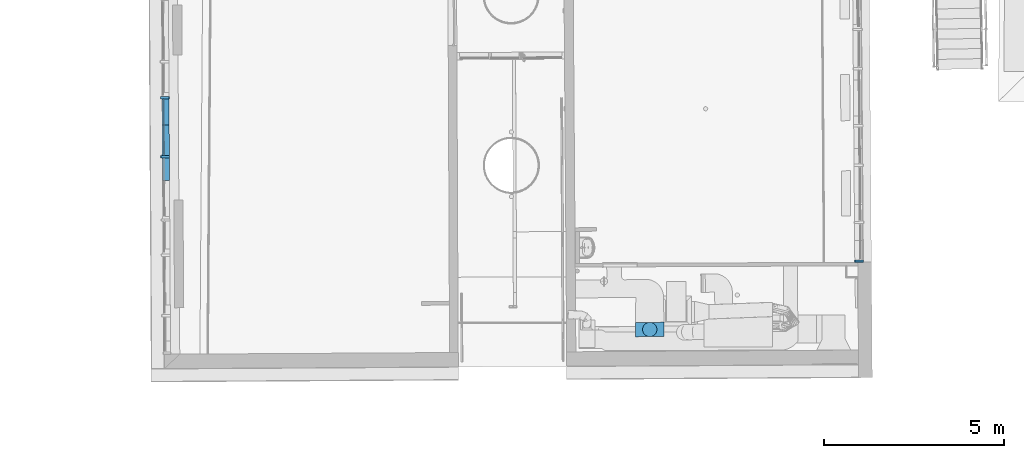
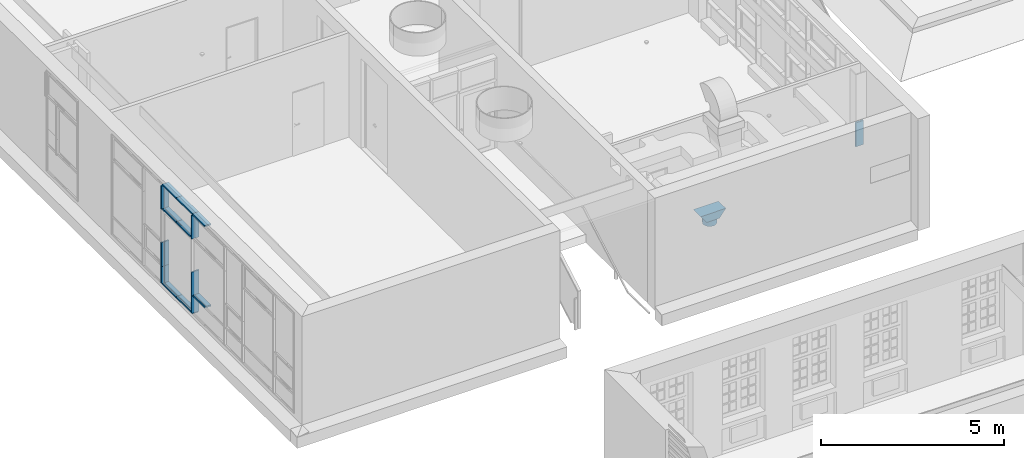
# One storey, part 118 of 158: 17 building element parts, 3 elements without a shape of their own.
"""IFC2X3 building model written with IfcOpenShell, lengths in metres."""

from ifc_helpers import new_model, entity, si_unit, converted_unit, derived_unit, money_unit, direction, frame, origin_with_axes, place, context, subcontext, project, spatial, faceted_brep, material, type_object, element, aggregate, save


model = new_model("IFC2X3")

# Units and contexts
model_context = context("Model", 3, precision=1e-05, world=origin_with_axes(), true_north=direction((0.0, 1.0)))
body_context = subcontext(model_context, "Body", "Model", "MODEL_VIEW")
ifc_project = project(units=[si_unit("LENGTHUNIT", "METRE"), si_unit("AREAUNIT", "SQUARE_METRE"), si_unit("VOLUMEUNIT", "CUBIC_METRE"), converted_unit("PLANEANGLEUNIT", "DEGREE", entity("IfcPlaneAngleMeasure", 0.0174532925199), si_unit("PLANEANGLEUNIT", "RADIAN"), dimensions=[0, 0, 0, 0, 0, 0, 0]), money_unit("EUR"), converted_unit("TIMEUNIT", "Year", entity("IfcTimeMeasure", 31556926.0), si_unit("TIMEUNIT", "SECOND"), dimensions=[0, 0, 1, 0, 0, 0, 0]), si_unit("MASSUNIT", "GRAM", prefix="KILO"), si_unit("THERMODYNAMICTEMPERATUREUNIT", "DEGREE_CELSIUS"), si_unit("LUMINOUSINTENSITYUNIT", "LUMEN"), si_unit("ENERGYUNIT", "JOULE", prefix="MEGA"), derived_unit("THERMALCONDUCTANCEUNIT", [(si_unit("POWERUNIT", "WATT"), 1), (si_unit("LENGTHUNIT", "METRE"), -1), (si_unit("THERMODYNAMICTEMPERATUREUNIT", "KELVIN"), -1)]), derived_unit("SPECIFICHEATCAPACITYUNIT", [(si_unit("ENERGYUNIT", "JOULE"), 1), (si_unit("MASSUNIT", "GRAM", prefix="KILO"), -1), (si_unit("THERMODYNAMICTEMPERATUREUNIT", "KELVIN"), -1)]), derived_unit("MASSDENSITYUNIT", [(si_unit("MASSUNIT", "GRAM", prefix="KILO"), 1), (si_unit("VOLUMEUNIT", "CUBIC_METRE"), -1)])], contexts=[model_context])

# Site, building, storey
site_placement = place(None, origin_with_axes())
site = spatial("IfcSite", under=ifc_project, at=site_placement, Name="Gelände", CompositionType="ELEMENT")
building_placement = place(site_placement, origin_with_axes())
building = spatial("IfcBuilding", under=site, at=building_placement, Name="Gebäude", CompositionType="ELEMENT")
storey_placement = place(building_placement, origin_with_axes())
storey = spatial("IfcBuildingStorey", under=building, at=storey_placement, Name="ERDGESCHOSS", CompositionType="ELEMENT", Elevation=0.0)

# Proxy, building element part
building_element_proxy_type = type_object("IfcBuildingElementProxyType", Name="Fassadentyp", PredefinedType="NOTDEFINED")
proxy_1_placement = place(storey_placement, frame((-15.5457352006, 40.9565245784, 1.34043905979), z_axis=(0.0, 0.0, 1.0), x_axis=(1.0, 0.0, 0.0)))
proxy_1 = element("IfcBuildingElementProxy", 1, at=proxy_1_placement, inside=storey, type_object=building_element_proxy_type, Name="Fassade-002")
ifc_material_1 = material(Name="53_Metall, Aluminium")
building_element_part_1_placement = place(proxy_1_placement, origin_with_axes())
building_element_part_1 = element("IfcBuildingElementPart", 2, at=building_element_part_1_placement, material=ifc_material_1, Name="53_Metall, Aluminium", context=body_context, shape_type="Brep", body=[
    faceted_brep([(0.0454258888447, -7.12321449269, 1.41999994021), (0.04530917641, -7.10821494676, 1.41999994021), (-0.0946865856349, -7.10930426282, 1.41999994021), (-0.0942975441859, -7.15930274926, 1.41999994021), (0.145695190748, -7.15743535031, 1.41999994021), (0.145306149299, -7.10743686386, 1.41999994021), (0.0653085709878, -7.10805933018, 1.41999994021), (0.0654252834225, -7.12305887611, 1.41999994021), (0.0454258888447, -7.12321449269, 0.61999994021), (0.04530917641, -7.10821494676, 0.61999994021), (-0.0946865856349, -7.10930426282, 0.61999994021), (-0.0942975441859, -7.15930274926, 0.61999994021), (0.145695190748, -7.15743535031, 0.61999994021), (0.145306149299, -7.10743686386, 0.61999994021), (0.0653085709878, -7.10805933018, 0.61999994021), (0.0654252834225, -7.12305887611, 0.61999994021)], [[[0, 1, 2, 3, 4, 5, 6, 7]], [[0, 8, 9, 1]], [[9, 10, 2, 1]], [[10, 11, 3, 2]], [[11, 12, 4, 3]], [[12, 13, 5, 4]], [[6, 5, 13, 14]], [[14, 15, 7, 6]], [[7, 15, 8, 0]], [[8, 15, 14, 13, 12, 11, 10, 9]]]),
])
aggregate(proxy_1, [building_element_part_1])

# Proxy, building element parts
proxy_2_placement = place(storey_placement, frame((-34.8120286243, 34.4012060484, 1.3404389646), z_axis=(0.0, 0.0, 1.0), x_axis=(1.0, 0.0, 0.0)))
proxy_2 = element("IfcBuildingElementProxy", 3, at=proxy_2_placement, inside=storey, type_object=building_element_proxy_type, Name="Fassade-002")
building_element_part_2_placement = place(proxy_2_placement, origin_with_axes())
building_element_part_2 = element("IfcBuildingElementPart", 4, at=building_element_part_2_placement, material=ifc_material_1, Name="53_Metall, Aluminium", context=body_context, shape_type="Brep", body=[
    faceted_brep([(-0.00883466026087, 3.21149355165, 2.5100000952), (-0.00883466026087, 3.21149355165, 2.4950000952), (0.131162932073, 3.21231461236, 2.4950000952), (0.131162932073, 3.21231461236, 2.5450000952), (-0.00883466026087, 3.21149355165, 2.5450000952), (-0.00883466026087, 3.21149355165, 2.5300000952), (-0.0288343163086, 3.21137625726, 2.5300000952), (-0.0288343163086, 3.21137625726, 2.5450000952), (-0.068833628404, 3.21114166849, 2.5450000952), (-0.068833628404, 3.21114166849, 2.4950000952), (-0.0288343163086, 3.21137625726, 2.4950000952), (-0.0288343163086, 3.21137625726, 2.5100000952), (-0.0130977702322, 3.93838880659, 2.5100000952), (-0.0130977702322, 3.93838880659, 2.4950000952), (0.126899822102, 3.93920986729, 2.4950000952), (0.126899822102, 3.93920986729, 2.5450000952), (-0.0130977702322, 3.93838880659, 2.5450000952), (-0.0130977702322, 3.93838880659, 2.5300000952), (-0.0330974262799, 3.9382715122, 2.5300000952), (-0.0330974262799, 3.9382715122, 2.5450000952), (-0.0730967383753, 3.93803692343, 2.5450000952), (-0.0730967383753, 3.93803692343, 2.4950000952), (-0.0330974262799, 3.9382715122, 2.4950000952), (-0.0330974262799, 3.9382715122, 2.5100000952)], [[[0, 1, 2, 3, 4, 5, 6, 7, 8, 9, 10, 11]], [[1, 0, 12, 13]], [[1, 13, 14, 2]], [[2, 14, 15, 3]], [[4, 3, 15, 16]], [[4, 16, 17, 5]], [[5, 17, 18, 6]], [[7, 6, 18, 19]], [[19, 20, 8, 7]], [[8, 20, 21, 9]], [[22, 10, 9, 21]], [[11, 10, 22, 23]], [[0, 11, 23, 12]], [[23, 22, 21, 20, 19, 18, 17, 16, 15, 14, 13, 12]]]),
])
building_element_part_3_placement = place(proxy_2_placement, origin_with_axes())
building_element_part_3 = element("IfcBuildingElementPart", 5, at=building_element_part_3_placement, material=ifc_material_1, Name="53_Metall, Aluminium", context=body_context, shape_type="Brep", body=[
    faceted_brep([(-0.0131857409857, 3.95338854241, 1.42000009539), (-0.0130977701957, 3.93838880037, 1.42000009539), (0.126899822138, 3.93920986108, 1.42000009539), (0.126606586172, 3.9892090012, 1.42000009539), (-0.0133910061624, 3.98838794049, 1.42000009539), (-0.0133030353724, 3.97338819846, 1.42000009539), (-0.0333026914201, 3.97327090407, 1.42000009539), (-0.0333906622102, 3.98827064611, 1.42000009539), (-0.108389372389, 3.98783079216, 1.42000009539), (-0.108096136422, 3.93783165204, 1.42000009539), (-0.0330974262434, 3.93827150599, 1.42000009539), (-0.0331853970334, 3.95327124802, 1.42000009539), (-0.0131857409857, 3.95338854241, 0.620000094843), (-0.0130977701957, 3.93838880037, 0.620000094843), (0.126899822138, 3.93920986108, 0.620000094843), (0.126606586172, 3.9892090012, 0.620000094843), (-0.0133910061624, 3.98838794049, 0.620000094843), (-0.0133030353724, 3.97338819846, 0.620000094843), (-0.0333026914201, 3.97327090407, 0.620000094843), (-0.0333906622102, 3.98827064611, 0.620000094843), (-0.108389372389, 3.98783079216, 0.620000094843), (-0.108096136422, 3.93783165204, 0.620000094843), (-0.0330974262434, 3.93827150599, 0.620000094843), (-0.0331853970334, 3.95327124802, 0.620000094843)], [[[0, 1, 2, 3, 4, 5, 6, 7, 8, 9, 10, 11]], [[1, 0, 12, 13]], [[1, 13, 14, 2]], [[3, 2, 14, 15]], [[4, 3, 15, 16]], [[4, 16, 17, 5]], [[5, 17, 18, 6]], [[7, 6, 18, 19]], [[19, 20, 8, 7]], [[9, 8, 20, 21]], [[22, 10, 9, 21]], [[11, 10, 22, 23]], [[0, 11, 23, 12]], [[23, 22, 21, 20, 19, 18, 17, 16, 15, 14, 13, 12]]]),
])
building_element_part_4_placement = place(proxy_2_placement, origin_with_axes())
building_element_part_4 = element("IfcBuildingElementPart", 6, at=building_element_part_4_placement, material=ifc_material_1, Name="53_Metall, Aluminium", context=body_context, shape_type="Brep", body=[
    faceted_brep([(-0.00883466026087, 3.21149355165, 0.0350000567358), (-0.0288343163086, 3.21137625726, 0.0350000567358), (-0.0288343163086, 3.21137625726, 0.0500000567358), (-0.068833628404, 3.21114166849, 0.0500000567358), (-0.068833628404, 3.21114166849, 5.6735754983e-08), (0.131162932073, 3.21231461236, 5.6735754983e-08), (0.131162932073, 3.21231461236, 0.0500000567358), (-0.00883466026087, 3.21149355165, 0.0500000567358), (-0.0132443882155, 3.96338837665, 0.0350000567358), (-0.0332440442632, 3.96327108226, 0.0350000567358), (-0.0332440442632, 3.96327108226, 0.0500000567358), (-0.0732433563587, 3.96303649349, 0.0500000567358), (-0.0732433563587, 3.96303649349, 5.6735754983e-08), (0.126753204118, 3.96420943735, 5.6735754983e-08), (0.126753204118, 3.96420943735, 0.0500000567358), (-0.0132443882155, 3.96338837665, 0.0500000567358)], [[[0, 1, 2, 3, 4, 5, 6, 7]], [[1, 0, 8, 9]], [[10, 2, 1, 9]], [[2, 10, 11, 3]], [[12, 4, 3, 11]], [[13, 5, 4, 12]], [[14, 6, 5, 13]], [[15, 7, 6, 14]], [[0, 7, 15, 8]], [[8, 15, 14, 13, 12, 11, 10, 9]]]),
])
building_element_part_5_placement = place(proxy_2_placement, origin_with_axes())
building_element_part_5 = element("IfcBuildingElementPart", 7, at=building_element_part_5_placement, material=ifc_material_1, Name="53_Metall, Aluminium", context=body_context, shape_type="Brep", body=[
    faceted_brep([(-0.00365213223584, 2.32782996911, 0.0350000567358), (-0.0236517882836, 2.32771267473, 0.0350000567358), (-0.0236517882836, 2.32771267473, 0.0500000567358), (-0.063651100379, 2.32747808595, 0.0500000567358), (-0.063651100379, 2.32747808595, 5.6735754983e-08), (0.136345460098, 2.32865102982, 5.6735754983e-08), (0.136345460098, 2.32865102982, 0.0500000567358), (-0.00365213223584, 2.32782996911, 0.0500000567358), (-0.00883466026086, 3.21149355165, 0.0350000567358), (-0.0288343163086, 3.21137625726, 0.0350000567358), (-0.0288343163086, 3.21137625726, 0.0500000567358), (-0.068833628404, 3.21114166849, 0.0500000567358), (-0.068833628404, 3.21114166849, 5.6735754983e-08), (0.131162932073, 3.21231461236, 5.6735754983e-08), (0.131162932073, 3.21231461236, 0.0500000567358), (-0.00883466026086, 3.21149355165, 0.0500000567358)], [[[0, 1, 2, 3, 4, 5, 6, 7]], [[1, 0, 8, 9]], [[10, 2, 1, 9]], [[2, 10, 11, 3]], [[12, 4, 3, 11]], [[13, 5, 4, 12]], [[14, 6, 5, 13]], [[15, 7, 6, 14]], [[0, 7, 15, 8]], [[8, 15, 14, 13, 12, 11, 10, 9]]]),
])
building_element_part_6_placement = place(proxy_2_placement, origin_with_axes())
building_element_part_6 = element("IfcBuildingElementPart", 8, at=building_element_part_6_placement, material=ifc_material_1, Name="53_Metall, Aluminium", context=body_context, shape_type="Brep", body=[
    faceted_brep([(0.000255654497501, 1.66152024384, 0.610000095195), (0.000255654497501, 1.66152024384, 0.595000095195), (0.140253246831, 1.66234130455, 0.595000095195), (0.140253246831, 1.66234130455, 0.645000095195), (0.000255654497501, 1.66152024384, 0.645000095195), (0.000255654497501, 1.66152024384, 0.630000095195), (-0.0197440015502, 1.66140294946, 0.630000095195), (-0.0197440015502, 1.66140294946, 0.645000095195), (-0.0597433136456, 1.66116836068, 0.645000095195), (-0.0597433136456, 1.66116836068, 0.595000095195), (-0.0197440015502, 1.66140294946, 0.595000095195), (-0.0197440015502, 1.66140294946, 0.610000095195), (-0.00350551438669, 2.30283042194, 0.610000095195), (-0.00350551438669, 2.30283042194, 0.595000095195), (0.136492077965, 2.30365147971, 0.595000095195), (0.136492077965, 2.30365147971, 0.645000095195), (-0.00350551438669, 2.30283042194, 0.645000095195), (-0.00350551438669, 2.30283042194, 0.630000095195), (-0.0235051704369, 2.30271312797, 0.630000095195), (-0.0235051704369, 2.30271312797, 0.645000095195), (-0.0635044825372, 2.30247854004, 0.645000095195), (-0.0635044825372, 2.30247854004, 0.595000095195), (-0.0235051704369, 2.30271312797, 0.595000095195), (-0.0235051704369, 2.30271312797, 0.610000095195)], [[[0, 1, 2, 3, 4, 5, 6, 7, 8, 9, 10, 11]], [[1, 0, 12, 13]], [[1, 13, 14, 2]], [[2, 14, 15, 3]], [[4, 3, 15, 16]], [[4, 16, 17, 5]], [[5, 17, 18, 6]], [[7, 6, 18, 19]], [[19, 20, 8, 7]], [[8, 20, 21, 9]], [[22, 10, 9, 21]], [[11, 10, 22, 23]], [[0, 11, 23, 12]], [[23, 22, 21, 20, 19, 18, 17, 16, 15, 14, 13, 12]]]),
])
building_element_part_7_placement = place(proxy_2_placement, origin_with_axes())
building_element_part_7 = element("IfcBuildingElementPart", 9, at=building_element_part_7_placement, material=ifc_material_1, Name="53_Metall, Aluminium", context=body_context, shape_type="Brep", body=[
    faceted_brep([(-0.00359348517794, 2.31783016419, 1.42000009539), (-0.00350551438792, 2.30283042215, 1.42000009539), (0.136492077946, 2.30365148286, 1.42000009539), (0.136198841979, 2.35365062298, 1.42000009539), (-0.00379875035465, 2.35282956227, 1.42000009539), (-0.00371077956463, 2.33782982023, 1.42000009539), (-0.0237104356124, 2.33771252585, 1.42000009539), (-0.0237984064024, 2.35271226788, 1.42000009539), (-0.0987971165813, 2.35227241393, 1.42000009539), (-0.0985038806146, 2.30227327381, 1.42000009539), (-0.0235051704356, 2.30271312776, 1.42000009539), (-0.0235931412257, 2.3177128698, 1.42000009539), (-0.00359348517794, 2.31783016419, 0.620000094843), (-0.00350551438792, 2.30283042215, 0.620000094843), (0.136492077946, 2.30365148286, 0.620000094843), (0.136198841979, 2.35365062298, 0.620000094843), (-0.00379875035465, 2.35282956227, 0.620000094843), (-0.00371077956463, 2.33782982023, 0.620000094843), (-0.0237104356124, 2.33771252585, 0.620000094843), (-0.0237984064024, 2.35271226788, 0.620000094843), (-0.0987971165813, 2.35227241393, 0.620000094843), (-0.0985038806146, 2.30227327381, 0.620000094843), (-0.0235051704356, 2.30271312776, 0.620000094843), (-0.0235931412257, 2.3177128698, 0.620000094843)], [[[0, 1, 2, 3, 4, 5, 6, 7, 8, 9, 10, 11]], [[1, 0, 12, 13]], [[1, 13, 14, 2]], [[3, 2, 14, 15]], [[4, 3, 15, 16]], [[4, 16, 17, 5]], [[5, 17, 18, 6]], [[7, 6, 18, 19]], [[19, 20, 8, 7]], [[9, 8, 20, 21]], [[22, 10, 9, 21]], [[11, 10, 22, 23]], [[0, 11, 23, 12]], [[23, 22, 21, 20, 19, 18, 17, 16, 15, 14, 13, 12]]]),
])
building_element_part_8_placement = place(proxy_2_placement, origin_with_axes())
building_element_part_8 = element("IfcBuildingElementPart", 10, at=building_element_part_8_placement, material=ifc_material_1, Name="53_Metall, Aluminium", context=body_context, shape_type="Brep", body=[
    faceted_brep([(-0.00359348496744, 2.3178301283, 3.29999996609), (-0.00350551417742, 2.30283038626, 3.29999996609), (0.136492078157, 2.30365144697, 3.29999996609), (0.13619884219, 2.35365058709, 3.29999996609), (-0.00379875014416, 2.35282952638, 3.29999996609), (-0.00371077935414, 2.33782978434, 3.29999996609), (-0.0237104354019, 2.33771248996, 3.29999996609), (-0.0237984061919, 2.35271223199, 3.29999996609), (-0.0987971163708, 2.35227237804, 3.29999996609), (-0.0985038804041, 2.30227323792, 3.29999996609), (-0.0235051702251, 2.30271309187, 3.29999996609), (-0.0235931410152, 2.31771283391, 3.29999996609), (-0.00359348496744, 2.3178301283, 2.52000009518), (-0.00350551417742, 2.30283038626, 2.52000009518), (0.136492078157, 2.30365144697, 2.52000009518), (0.13619884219, 2.35365058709, 2.52000009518), (-0.00379875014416, 2.35282952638, 2.52000009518), (-0.00371077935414, 2.33782978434, 2.52000009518), (-0.0237104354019, 2.33771248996, 2.52000009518), (-0.0237984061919, 2.35271223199, 2.52000009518), (-0.0987971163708, 2.35227237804, 2.52000009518), (-0.0985038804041, 2.30227323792, 2.52000009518), (-0.0235051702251, 2.30271309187, 2.52000009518), (-0.0235931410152, 2.31771283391, 2.52000009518)], [[[0, 1, 2, 3, 4, 5, 6, 7, 8, 9, 10, 11]], [[1, 0, 12, 13]], [[1, 13, 14, 2]], [[3, 2, 14, 15]], [[4, 3, 15, 16]], [[4, 16, 17, 5]], [[5, 17, 18, 6]], [[7, 6, 18, 19]], [[19, 20, 8, 7]], [[9, 8, 20, 21]], [[22, 10, 9, 21]], [[11, 10, 22, 23]], [[0, 11, 23, 12]], [[23, 22, 21, 20, 19, 18, 17, 16, 15, 14, 13, 12]]]),
])
building_element_part_9_placement = place(proxy_2_placement, origin_with_axes())
building_element_part_9 = element("IfcBuildingElementPart", 11, at=building_element_part_9_placement, material=ifc_material_1, Name="53_Metall, Aluminium", context=body_context, shape_type="Brep", body=[
    faceted_brep([(-0.00379875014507, 2.35282952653, 2.5100000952), (-0.00379875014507, 2.35282952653, 2.4950000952), (0.136198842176, 2.3536505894, 2.4950000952), (0.136198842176, 2.3536505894, 2.5450000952), (-0.00379875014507, 2.35282952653, 2.5450000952), (-0.00379875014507, 2.35282952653, 2.5300000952), (-0.023798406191, 2.35271223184, 2.5300000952), (-0.023798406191, 2.35271223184, 2.5450000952), (-0.0637977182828, 2.35247764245, 2.5450000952), (-0.0637977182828, 2.35247764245, 2.4950000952), (-0.023798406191, 2.35271223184, 2.4950000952), (-0.023798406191, 2.35271223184, 2.5100000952), (-0.00883466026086, 3.21149355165, 2.5100000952), (-0.00883466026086, 3.21149355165, 2.4950000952), (0.131162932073, 3.21231461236, 2.4950000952), (0.131162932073, 3.21231461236, 2.5450000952), (-0.00883466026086, 3.21149355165, 2.5450000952), (-0.00883466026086, 3.21149355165, 2.5300000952), (-0.0288343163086, 3.21137625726, 2.5300000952), (-0.0288343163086, 3.21137625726, 2.5450000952), (-0.068833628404, 3.21114166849, 2.5450000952), (-0.068833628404, 3.21114166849, 2.4950000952), (-0.0288343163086, 3.21137625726, 2.4950000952), (-0.0288343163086, 3.21137625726, 2.5100000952)], [[[0, 1, 2, 3, 4, 5, 6, 7, 8, 9, 10, 11]], [[1, 0, 12, 13]], [[1, 13, 14, 2]], [[3, 2, 14, 15]], [[4, 3, 15, 16]], [[4, 16, 17, 5]], [[5, 17, 18, 6]], [[7, 6, 18, 19]], [[19, 20, 8, 7]], [[9, 8, 20, 21]], [[22, 10, 9, 21]], [[11, 10, 22, 23]], [[0, 11, 23, 12]], [[23, 22, 21, 20, 19, 18, 17, 16, 15, 14, 13, 12]]]),
])
building_element_part_10_placement = place(proxy_2_placement, origin_with_axes())
building_element_part_10 = element("IfcBuildingElementPart", 12, at=building_element_part_10_placement, material=ifc_material_1, Name="53_Metall, Aluminium", context=body_context, shape_type="Brep", body=[
    faceted_brep([(-0.00359348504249, 2.31783014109, 0.62000009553), (-0.00350551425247, 2.30283039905, 0.62000009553), (0.136492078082, 2.30365145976, 0.62000009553), (0.136198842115, 2.35365059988, 0.62000009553), (-0.0037987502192, 2.35282953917, 0.62000009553), (-0.00371077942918, 2.33782979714, 0.62000009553), (-0.0237104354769, 2.33771250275, 0.62000009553), (-0.0237984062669, 2.35271224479, 0.62000009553), (-0.0987971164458, 2.35227239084, 0.62000009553), (-0.0985038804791, 2.30227325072, 0.62000009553), (-0.0235051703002, 2.30271310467, 0.62000009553), (-0.0235931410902, 2.3177128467, 0.62000009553), (-0.00359348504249, 2.31783014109, 0.0500000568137), (-0.00350551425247, 2.30283039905, 0.0500000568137), (0.136492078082, 2.30365145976, 0.050000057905), (0.136198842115, 2.35365059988, 0.050000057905), (-0.0037987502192, 2.35282953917, 0.0500000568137), (-0.00371077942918, 2.33782979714, 0.0500000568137), (-0.0237104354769, 2.33771250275, 0.0500000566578), (-0.0237984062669, 2.35271224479, 0.0500000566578), (-0.0987971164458, 2.35227239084, 0.0500000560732), (-0.0985038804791, 2.30227325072, 0.0500000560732), (-0.0235051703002, 2.30271310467, 0.0500000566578), (-0.0235931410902, 2.3177128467, 0.0500000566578)], [[[0, 1, 2, 3, 4, 5, 6, 7, 8, 9, 10, 11]], [[1, 0, 12, 13]], [[1, 13, 14, 2]], [[2, 14, 15, 3]], [[4, 3, 15, 16]], [[4, 16, 17, 5]], [[5, 17, 18, 6]], [[7, 6, 18, 19]], [[19, 20, 8, 7]], [[8, 20, 21, 9]], [[22, 10, 9, 21]], [[11, 10, 22, 23]], [[0, 11, 23, 12]], [[23, 22, 21, 20, 19, 18, 17, 16, 15, 14, 13, 12]]]),
])
building_element_part_11_placement = place(proxy_2_placement, origin_with_axes())
building_element_part_11 = element("IfcBuildingElementPart", 13, at=building_element_part_11_placement, material=ifc_material_1, Name="53_Metall, Aluminium", context=body_context, shape_type="Brep", body=[
    faceted_brep([(-0.0131857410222, 3.95338854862, 0.62000009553), (-0.0130977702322, 3.93838880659, 0.62000009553), (0.126899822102, 3.93920986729, 0.62000009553), (0.126606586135, 3.98920900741, 0.62000009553), (-0.0133910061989, 3.98838794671, 0.62000009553), (-0.0133030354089, 3.97338820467, 0.62000009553), (-0.0333026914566, 3.97327091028, 0.62000009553), (-0.0333906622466, 3.98827065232, 0.62000009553), (-0.108389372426, 3.98783079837, 0.62000009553), (-0.108096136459, 3.93783165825, 0.62000009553), (-0.0330974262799, 3.9382715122, 0.62000009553), (-0.0331853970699, 3.95327125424, 0.62000009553), (-0.0131857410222, 3.95338854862, 0.0500000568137), (-0.0130977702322, 3.93838880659, 0.0500000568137), (0.126899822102, 3.93920986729, 0.050000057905), (0.126606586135, 3.98920900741, 0.050000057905), (-0.0133910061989, 3.98838794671, 0.0500000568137), (-0.0133030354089, 3.97338820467, 0.0500000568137), (-0.0333026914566, 3.97327091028, 0.0500000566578), (-0.0333906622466, 3.98827065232, 0.0500000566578), (-0.108389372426, 3.98783079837, 0.0500000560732), (-0.108096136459, 3.93783165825, 0.0500000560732), (-0.0330974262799, 3.9382715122, 0.0500000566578), (-0.0331853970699, 3.95327125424, 0.0500000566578)], [[[0, 1, 2, 3, 4, 5, 6, 7, 8, 9, 10, 11]], [[1, 0, 12, 13]], [[1, 13, 14, 2]], [[2, 14, 15, 3]], [[4, 3, 15, 16]], [[4, 16, 17, 5]], [[5, 17, 18, 6]], [[7, 6, 18, 19]], [[19, 20, 8, 7]], [[8, 20, 21, 9]], [[22, 10, 9, 21]], [[11, 10, 22, 23]], [[0, 11, 23, 12]], [[23, 22, 21, 20, 19, 18, 17, 16, 15, 14, 13, 12]]]),
])
building_element_part_12_placement = place(proxy_2_placement, origin_with_axes())
building_element_part_12 = element("IfcBuildingElementPart", 14, at=building_element_part_12_placement, material=ifc_material_1, Name="53_Metall, Aluminium", context=body_context, shape_type="Brep", body=[
    faceted_brep([(0.000255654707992, 1.66152020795, 3.31499999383), (0.000255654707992, 1.66152020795, 3.29999999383), (0.140253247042, 1.66234126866, 3.29999999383), (0.140253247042, 1.66234126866, 3.34999999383), (-0.0597433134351, 1.66116832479, 3.34999999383), (-0.0597433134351, 1.66116832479, 3.29999999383), (-0.0197440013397, 1.66140291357, 3.29999999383), (-0.0197440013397, 1.66140291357, 3.31499999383), (-0.00365213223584, 2.32782996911, 3.31499999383), (-0.00365213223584, 2.32782996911, 3.29999999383), (0.136345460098, 2.32865102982, 3.29999999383), (0.136345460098, 2.32865102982, 3.34999999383), (-0.063651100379, 2.32747808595, 3.34999999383), (-0.063651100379, 2.32747808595, 3.29999999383), (-0.0236517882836, 2.32771267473, 3.29999999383), (-0.0236517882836, 2.32771267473, 3.31499999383)], [[[0, 1, 2, 3, 4, 5, 6, 7]], [[0, 8, 9, 1]], [[9, 10, 2, 1]], [[10, 11, 3, 2]], [[11, 12, 4, 3]], [[12, 13, 5, 4]], [[6, 5, 13, 14]], [[14, 15, 7, 6]], [[7, 15, 8, 0]], [[8, 15, 14, 13, 12, 11, 10, 9]]]),
])
building_element_part_13_placement = place(proxy_2_placement, origin_with_axes())
building_element_part_13 = element("IfcBuildingElementPart", 15, at=building_element_part_13_placement, material=ifc_material_1, Name="53_Metall, Aluminium", context=body_context, shape_type="Brep", body=[
    faceted_brep([(-0.00365213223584, 2.32782996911, 3.31499999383), (-0.00365213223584, 2.32782996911, 3.29999999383), (0.136345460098, 2.32865102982, 3.29999999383), (0.136345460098, 2.32865102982, 3.34999999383), (-0.063651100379, 2.32747808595, 3.34999999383), (-0.063651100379, 2.32747808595, 3.29999999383), (-0.0236517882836, 2.32771267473, 3.29999999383), (-0.0236517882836, 2.32771267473, 3.31499999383), (-0.00883466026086, 3.21149355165, 3.31499999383), (-0.00883466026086, 3.21149355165, 3.29999999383), (0.131162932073, 3.21231461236, 3.29999999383), (0.131162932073, 3.21231461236, 3.34999999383), (-0.068833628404, 3.21114166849, 3.34999999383), (-0.068833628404, 3.21114166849, 3.29999999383), (-0.0288343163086, 3.21137625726, 3.29999999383), (-0.0288343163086, 3.21137625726, 3.31499999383)], [[[0, 1, 2, 3, 4, 5, 6, 7]], [[0, 8, 9, 1]], [[9, 10, 2, 1]], [[10, 11, 3, 2]], [[11, 12, 4, 3]], [[12, 13, 5, 4]], [[6, 5, 13, 14]], [[14, 15, 7, 6]], [[7, 15, 8, 0]], [[8, 15, 14, 13, 12, 11, 10, 9]]]),
])
building_element_part_14_placement = place(proxy_2_placement, origin_with_axes())
building_element_part_14 = element("IfcBuildingElementPart", 16, at=building_element_part_14_placement, material=ifc_material_1, Name="53_Metall, Aluminium", context=body_context, shape_type="Brep", body=[
    faceted_brep([(-0.00883466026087, 3.21149355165, 3.31499999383), (-0.00883466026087, 3.21149355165, 3.29999999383), (0.131162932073, 3.21231461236, 3.29999999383), (0.131162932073, 3.21231461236, 3.34999999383), (-0.068833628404, 3.21114166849, 3.34999999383), (-0.068833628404, 3.21114166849, 3.29999999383), (-0.0288343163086, 3.21137625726, 3.29999999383), (-0.0288343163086, 3.21137625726, 3.31499999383), (-0.0132443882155, 3.96338837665, 3.31499999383), (-0.0132443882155, 3.96338837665, 3.29999999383), (0.126753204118, 3.96420943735, 3.29999999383), (0.126753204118, 3.96420943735, 3.34999999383), (-0.0732433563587, 3.96303649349, 3.34999999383), (-0.0732433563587, 3.96303649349, 3.29999999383), (-0.0332440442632, 3.96327108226, 3.29999999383), (-0.0332440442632, 3.96327108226, 3.31499999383)], [[[0, 1, 2, 3, 4, 5, 6, 7]], [[0, 8, 9, 1]], [[9, 10, 2, 1]], [[10, 11, 3, 2]], [[11, 12, 4, 3]], [[12, 13, 5, 4]], [[6, 5, 13, 14]], [[14, 15, 7, 6]], [[7, 15, 8, 0]], [[8, 15, 14, 13, 12, 11, 10, 9]]]),
])
building_element_part_15_placement = place(proxy_2_placement, origin_with_axes())
building_element_part_15 = element("IfcBuildingElementPart", 17, at=building_element_part_15_placement, material=ifc_material_1, Name="53_Metall, Aluminium", context=body_context, shape_type="Brep", body=[
    faceted_brep([(-0.0131857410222, 3.95338854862, 3.29999996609), (-0.0130977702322, 3.93838880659, 3.29999996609), (0.126899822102, 3.93920986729, 3.29999996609), (0.126606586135, 3.98920900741, 3.29999996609), (-0.0133910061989, 3.98838794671, 3.29999996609), (-0.0133030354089, 3.97338820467, 3.29999996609), (-0.0333026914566, 3.97327091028, 3.29999996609), (-0.0333906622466, 3.98827065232, 3.29999996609), (-0.108389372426, 3.98783079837, 3.29999996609), (-0.108096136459, 3.93783165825, 3.29999996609), (-0.0330974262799, 3.9382715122, 3.29999996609), (-0.0331853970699, 3.95327125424, 3.29999996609), (-0.0131857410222, 3.95338854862, 2.52000009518), (-0.0130977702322, 3.93838880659, 2.52000009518), (0.126899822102, 3.93920986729, 2.52000009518), (0.126606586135, 3.98920900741, 2.52000009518), (-0.0133910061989, 3.98838794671, 2.52000009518), (-0.0133030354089, 3.97338820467, 2.52000009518), (-0.0333026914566, 3.97327091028, 2.52000009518), (-0.0333906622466, 3.98827065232, 2.52000009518), (-0.108389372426, 3.98783079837, 2.52000009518), (-0.108096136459, 3.93783165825, 2.52000009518), (-0.0330974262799, 3.9382715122, 2.52000009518), (-0.0331853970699, 3.95327125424, 2.52000009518)], [[[0, 1, 2, 3, 4, 5, 6, 7, 8, 9, 10, 11]], [[1, 0, 12, 13]], [[1, 13, 14, 2]], [[3, 2, 14, 15]], [[4, 3, 15, 16]], [[4, 16, 17, 5]], [[5, 17, 18, 6]], [[7, 6, 18, 19]], [[19, 20, 8, 7]], [[9, 8, 20, 21]], [[22, 10, 9, 21]], [[11, 10, 22, 23]], [[0, 11, 23, 12]], [[23, 22, 21, 20, 19, 18, 17, 16, 15, 14, 13, 12]]]),
])
aggregate(proxy_2, [building_element_part_2, building_element_part_3, building_element_part_4, building_element_part_5, building_element_part_6, building_element_part_7, building_element_part_8, building_element_part_9, building_element_part_10, building_element_part_11, building_element_part_12, building_element_part_13, building_element_part_14, building_element_part_15])

# Column, building element parts
column_type = type_object("IfcColumnType", Name="Verschiedene Strukturen - 2 Segmente - 800 x 400 x 446 (188+258)", PredefinedType="USERDEFINED")
column_placement = place(storey_placement, frame((-21.333668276, 31.9286956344, 2.57138322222), z_axis=(0.0, 0.0, 1.0), x_axis=(0.968308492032, 0.249757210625, 0.0)))
column = element("IfcColumn", 18, at=column_placement, inside=storey, type_object=column_type, Name="Stütze-012", ObjectType="PILASTER")
ifc_material_2 = material(Name="56_Metall, Stahl verzinkt")
building_element_part_16_placement = place(column_placement, origin_with_axes())
building_element_part_16 = element("IfcBuildingElementPart", 19, at=building_element_part_16_placement, material=ifc_material_2, Name="56_Metall, Stahl verzinkt", context=body_context, shape_type="Brep", body=[
    faceted_brep([(-0.193878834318, 0.0491019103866, 0.188275), (-0.193878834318, 0.0491019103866, 0.0), (-0.199732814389, 0.0103345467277, 0.0), (-0.199732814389, 0.0103345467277, 0.188275), (-0.180574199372, 0.085982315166, 0.188275), (-0.180574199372, 0.085982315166, 0.0), (-0.160330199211, 0.119558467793, 0.0), (-0.133924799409, 0.148540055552, 0.0), (-0.102372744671, 0.171813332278, 0.0), (-0.0668865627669, 0.188483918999, 0.0), (-0.0288299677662, 0.197911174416, 0.0), (0.0103345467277, 0.199732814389, 0.0), (0.0491019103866, 0.193878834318, 0.0), (0.085982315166, 0.180574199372, 0.0), (0.119558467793, 0.160330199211, 0.0), (0.148540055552, 0.133924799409, 0.0), (0.171813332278, 0.102372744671, 0.0), (0.188483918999, 0.066886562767, 0.0), (0.197911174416, 0.0288299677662, 0.0), (0.199732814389, -0.0103345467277, 0.0), (0.193878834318, -0.0491019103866, 0.0), (0.180574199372, -0.085982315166, 0.0), (0.160330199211, -0.119558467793, 0.0), (0.133924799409, -0.148540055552, 0.0), (0.102372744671, -0.171813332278, 0.0), (0.0668865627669, -0.188483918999, 0.0), (0.0288299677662, -0.197911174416, 0.0), (-0.0103345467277, -0.199732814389, 0.0), (-0.0491019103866, -0.193878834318, 0.0), (-0.085982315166, -0.180574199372, 0.0), (-0.119558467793, -0.160330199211, 0.0), (-0.148540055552, -0.133924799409, 0.0), (-0.171813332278, -0.102372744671, 0.0), (-0.188483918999, -0.0668865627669, 0.0), (-0.197911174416, -0.0288299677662, 0.0), (-0.197911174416, -0.0288299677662, 0.188275), (-0.188483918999, -0.0668865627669, 0.188275), (-0.171813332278, -0.102372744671, 0.188275), (-0.148540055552, -0.133924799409, 0.188275), (-0.119558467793, -0.160330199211, 0.188275), (-0.085982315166, -0.180574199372, 0.188275), (-0.0491019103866, -0.193878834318, 0.188275), (-0.0103345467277, -0.199732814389, 0.188275), (0.0288299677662, -0.197911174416, 0.188275), (0.0668865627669, -0.188483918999, 0.188275), (0.102372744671, -0.171813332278, 0.188275), (0.133924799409, -0.148540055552, 0.188275), (0.160330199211, -0.119558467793, 0.188275), (0.180574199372, -0.085982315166, 0.188275), (0.193878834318, -0.0491019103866, 0.188275), (0.199732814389, -0.0103345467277, 0.188275), (0.197911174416, 0.0288299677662, 0.188275), (0.188483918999, 0.066886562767, 0.188275), (0.171813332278, 0.102372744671, 0.188275), (0.148540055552, 0.133924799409, 0.188275), (0.119558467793, 0.160330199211, 0.188275), (0.085982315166, 0.180574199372, 0.188275), (0.0491019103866, 0.193878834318, 0.188275), (0.0103345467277, 0.199732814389, 0.188275), (-0.0288299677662, 0.197911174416, 0.188275), (-0.0668865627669, 0.188483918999, 0.188275), (-0.102372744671, 0.171813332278, 0.188275), (-0.133924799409, 0.148540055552, 0.188275), (-0.160330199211, 0.119558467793, 0.188275)], [[[0, 1, 2, 3]], [[4, 5, 1, 0]], [[2, 1, 5, 6, 7, 8, 9, 10, 11, 12, 13, 14, 15, 16, 17, 18, 19, 20, 21, 22, 23, 24, 25, 26, 27, 28, 29, 30, 31, 32, 33, 34]], [[3, 2, 34, 35]], [[4, 0, 3, 35, 36, 37, 38, 39, 40, 41, 42, 43, 44, 45, 46, 47, 48, 49, 50, 51, 52, 53, 54, 55, 56, 57, 58, 59, 60, 61, 62, 63]], [[63, 6, 5, 4]], [[62, 7, 6, 63]], [[61, 8, 7, 62]], [[60, 9, 8, 61]], [[59, 10, 9, 60]], [[58, 11, 10, 59]], [[57, 12, 11, 58]], [[56, 13, 12, 57]], [[55, 14, 13, 56]], [[54, 15, 14, 55]], [[53, 16, 15, 54]], [[52, 17, 16, 53]], [[51, 18, 17, 52]], [[50, 19, 18, 51]], [[49, 20, 19, 50]], [[48, 21, 20, 49]], [[47, 22, 21, 48]], [[46, 23, 22, 47]], [[45, 24, 23, 46]], [[44, 25, 24, 45]], [[43, 26, 25, 44]], [[42, 27, 26, 43]], [[41, 28, 27, 42]], [[40, 29, 28, 41]], [[39, 30, 29, 40]], [[38, 31, 30, 39]], [[37, 32, 31, 38]], [[36, 33, 32, 37]], [[35, 34, 33, 36]]]),
])
building_element_part_17_placement = place(column_placement, origin_with_axes())
building_element_part_17 = element("IfcBuildingElementPart", 20, at=building_element_part_17_placement, material=ifc_material_2, Name="56_Metall, Stahl verzinkt", context=body_context, shape_type="Brep", body=[
    faceted_brep([(0.338655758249, -0.292082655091, 0.446114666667), (-0.436859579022, -0.0956750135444, 0.446114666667), (-0.242980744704, -0.144776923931, 0.188275), (0.144776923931, -0.242980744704, 0.188275), (0.436859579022, 0.0956750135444, 0.446114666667), (-0.338655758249, 0.292082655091, 0.446114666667), (-0.144776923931, 0.242980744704, 0.188275), (0.242980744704, 0.144776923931, 0.188275)], [[[0, 1, 2, 3]], [[4, 5, 1, 0]], [[1, 5, 6, 2]], [[7, 3, 2, 6]], [[4, 0, 3, 7]], [[5, 4, 7, 6]]]),
])
aggregate(column, [building_element_part_16, building_element_part_17])

save(model, "model.ifc")
